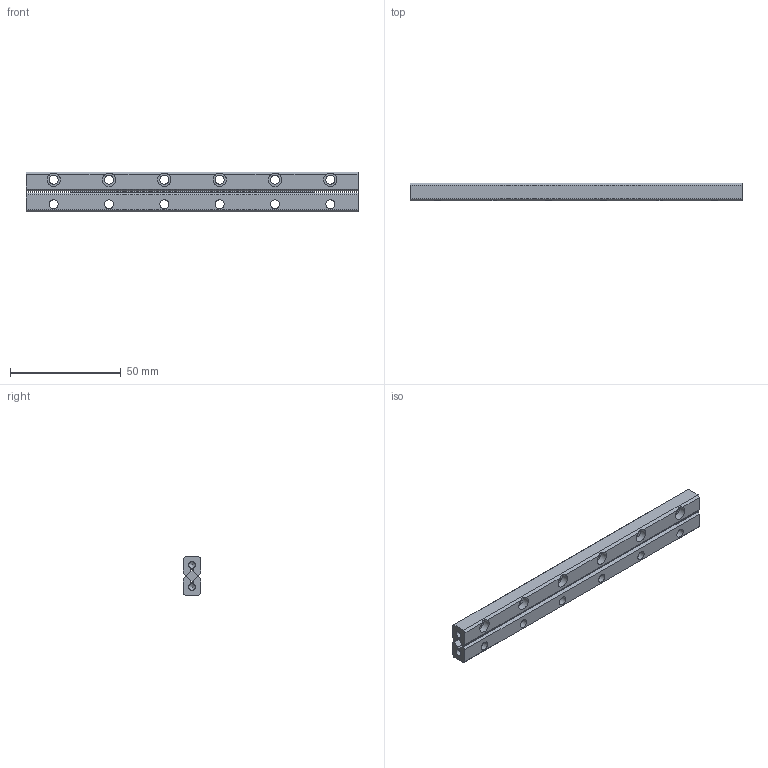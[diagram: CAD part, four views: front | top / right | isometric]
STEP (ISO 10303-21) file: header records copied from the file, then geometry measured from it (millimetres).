
FILE_DESCRIPTION((''),'2;1');
FILE_NAME('D:\製品 (図面)\カタログ用3D\リニアガイド関連\STEP形式\ACS3\ACS3150.stp','2010-07-29T15:34:41',('Tsuchiya'),(''),'Autodesk Inventor 10','Autodesk Inventor 10','');
FILE_SCHEMA(('AUTOMOTIVE_DESIGN { 1 0 10303 214 1 1 1 1 }'));
Length unit declared in the file: millimetre
Products named in the file (4): ACS3150; ACS31501; ACS31502; ACS31503
Assembly tree (3 placements, depth 2):
  ACS3150
    ACS31501
    ACS31502
    ACS31503
Bounding box: 150 x 8 x 18 mm (x, y, z)
Volume: 17833.4 mm3; surface area: 13560.8 mm2
Topology: 3 solids, 3 shells, 98 faces, 262 edges, 174 vertices
Faces by surface type: plane 52, bspline 40, cylinder 4, cone 2
Full cylindrical faces by diameter (mm): 3 x2
Entity records: 3255 total; most frequent: CARTESIAN_POINT 985, ORIENTED_EDGE 424, DIRECTION 414, EDGE_CURVE 212, EDGE_LOOP 158, VERTEX_POINT 156, VECTOR 140, LINE 140
